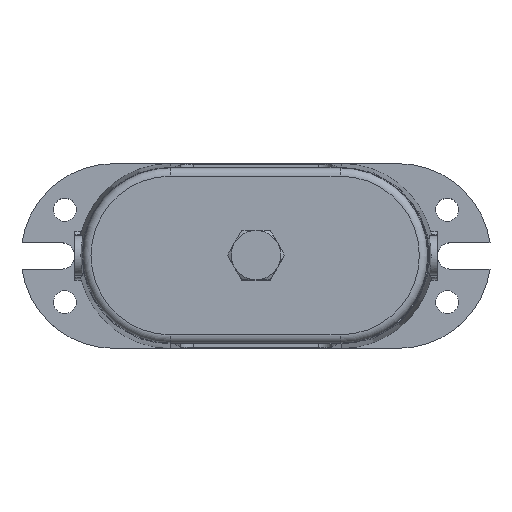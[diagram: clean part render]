
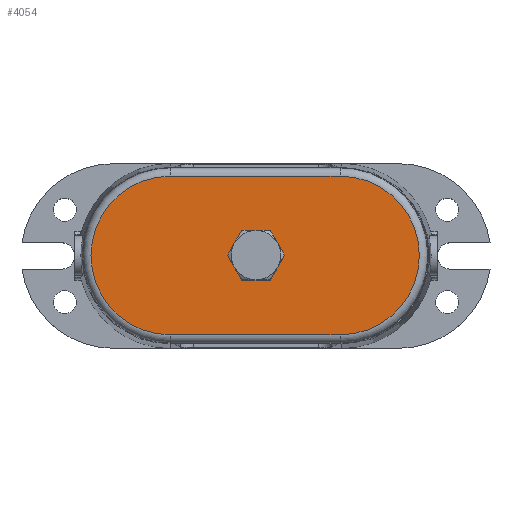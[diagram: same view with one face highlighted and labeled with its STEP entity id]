
A CAD part, top view. The second image highlights one B-rep face of the part: STEP entity #4054.
In plain terms, the highlighted planar face has unit normal (0, 0, 1).
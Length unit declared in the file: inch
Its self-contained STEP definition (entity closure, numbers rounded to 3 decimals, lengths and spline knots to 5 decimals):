
#149=FACE_BOUND('',#1239,.T.);
#222=PLANE('',#4372);
#367=LINE('',#8032,#634);
#368=LINE('',#8035,#635);
#634=VECTOR('',#5018,3.21875);
#635=VECTOR('',#5021,3.21875);
#975=FACE_OUTER_BOUND('',#1238,.T.);
#1238=EDGE_LOOP('',(#2929,#2930,#2931,#2932));
#1239=EDGE_LOOP('',(#2933,#2934,#2935,#2936,#2937,#2938));
#1482=CIRCLE('',#4355,0.46875);
#1483=CIRCLE('',#4357,0.46875);
#1484=CIRCLE('',#4359,0.46875);
#1485=CIRCLE('',#4361,0.46875);
#1486=CIRCLE('',#4363,0.46875);
#1487=CIRCLE('',#4365,0.46875);
#1488=CIRCLE('',#4373,1.50428);
#1489=CIRCLE('',#4374,1.50428);
#1761=VERTEX_POINT('',#7957);
#1762=VERTEX_POINT('',#7961);
#1763=VERTEX_POINT('',#7967);
#1766=VERTEX_POINT('',#7978);
#1768=VERTEX_POINT('',#7988);
#1769=VERTEX_POINT('',#7997);
#1772=VERTEX_POINT('',#8028);
#1773=VERTEX_POINT('',#8029);
#1774=VERTEX_POINT('',#8031);
#1775=VERTEX_POINT('',#8033);
#2188=EDGE_CURVE('',#1761,#1762,#1482,.T.);
#2190=EDGE_CURVE('',#1762,#1763,#1483,.T.);
#2194=EDGE_CURVE('',#1766,#1761,#1484,.T.);
#2197=EDGE_CURVE('',#1768,#1766,#1485,.T.);
#2199=EDGE_CURVE('',#1763,#1769,#1486,.T.);
#2202=EDGE_CURVE('',#1769,#1768,#1487,.T.);
#2210=EDGE_CURVE('',#1772,#1773,#1488,.T.);
#2211=EDGE_CURVE('',#1774,#1772,#367,.T.);
#2212=EDGE_CURVE('',#1775,#1774,#1489,.T.);
#2213=EDGE_CURVE('',#1773,#1775,#368,.T.);
#2929=ORIENTED_EDGE('',*,*,#2210,.F.);
#2930=ORIENTED_EDGE('',*,*,#2211,.F.);
#2931=ORIENTED_EDGE('',*,*,#2212,.F.);
#2932=ORIENTED_EDGE('',*,*,#2213,.F.);
#2933=ORIENTED_EDGE('',*,*,#2188,.T.);
#2934=ORIENTED_EDGE('',*,*,#2190,.T.);
#2935=ORIENTED_EDGE('',*,*,#2199,.T.);
#2936=ORIENTED_EDGE('',*,*,#2202,.T.);
#2937=ORIENTED_EDGE('',*,*,#2197,.T.);
#2938=ORIENTED_EDGE('',*,*,#2194,.T.);
#4054=ADVANCED_FACE('',(#975,#149),#222,.T.);
#4355=AXIS2_PLACEMENT_3D('',#7965,#4974,#4975);
#4357=AXIS2_PLACEMENT_3D('',#7972,#4978,#4979);
#4359=AXIS2_PLACEMENT_3D('',#7985,#4982,#4983);
#4361=AXIS2_PLACEMENT_3D('',#7995,#4986,#4987);
#4363=AXIS2_PLACEMENT_3D('',#8002,#4990,#4991);
#4365=AXIS2_PLACEMENT_3D('',#8011,#4994,#4995);
#4372=AXIS2_PLACEMENT_3D('',#8027,#5014,#5015);
#4373=AXIS2_PLACEMENT_3D('',#8030,#5016,#5017);
#4374=AXIS2_PLACEMENT_3D('',#8034,#5019,#5020);
#4974=DIRECTION('center_axis',(0.,0.,
-1.));
#4975=DIRECTION('ref_axis',(-1.,0.,0.));
#4978=DIRECTION('center_axis',(0.,0.,
-1.));
#4979=DIRECTION('ref_axis',(-1.,0.,0.));
#4982=DIRECTION('center_axis',(0.,0.,
-1.));
#4983=DIRECTION('ref_axis',(-1.,0.,0.));
#4986=DIRECTION('center_axis',(0.,0.,
-1.));
#4987=DIRECTION('ref_axis',(-1.,0.,0.));
#4990=DIRECTION('center_axis',(0.,0.,
-1.));
#4991=DIRECTION('ref_axis',(-1.,0.,0.));
#4994=DIRECTION('center_axis',(0.,0.,
-1.));
#4995=DIRECTION('ref_axis',(-1.,0.,0.));
#5014=DIRECTION('center_axis',(0.,0.,
1.));
#5015=DIRECTION('ref_axis',(1.,0.,0.));
#5016=DIRECTION('center_axis',(0.,0.,
-1.));
#5017=DIRECTION('ref_axis',(1.,0.,0.));
#5018=DIRECTION('',(1.,0.,0.));
#5019=DIRECTION('center_axis',(0.,0.,
-1.));
#5020=DIRECTION('ref_axis',(-1.,0.,0.));
#5021=DIRECTION('',(-1.,0.,0.));
#7957=CARTESIAN_POINT('',(0.40595,0.23438,5.625));
#7961=CARTESIAN_POINT('',(0.40595,-0.23437,5.625));
#7965=CARTESIAN_POINT('Origin',(0.,0.,
5.625));
#7967=CARTESIAN_POINT('',(0.,-0.46875,5.625));
#7972=CARTESIAN_POINT('Origin',(0.,0.,
5.625));
#7978=CARTESIAN_POINT('',(0.,0.46875,5.625));
#7985=CARTESIAN_POINT('Origin',(0.,0.,
5.625));
#7988=CARTESIAN_POINT('',(-0.40595,0.23437,5.625));
#7995=CARTESIAN_POINT('Origin',(0.,0.,
5.625));
#7997=CARTESIAN_POINT('',(-0.40595,-0.23438,5.625));
#8002=CARTESIAN_POINT('Origin',(0.,0.,
5.625));
#8011=CARTESIAN_POINT('Origin',(0.,0.,
5.625));
#8027=CARTESIAN_POINT('Origin',(-0.01563,0.,
5.625));
#8028=CARTESIAN_POINT('',(1.59375,1.50428,5.625));
#8029=CARTESIAN_POINT('',(1.59375,-1.50428,5.625));
#8030=CARTESIAN_POINT('Origin',(1.59375,0.,5.625));
#8031=CARTESIAN_POINT('',(-1.625,1.50428,5.625));
#8032=CARTESIAN_POINT('',(0.78906,1.50428,5.625));
#8033=CARTESIAN_POINT('',(-1.625,-1.50428,5.625));
#8034=CARTESIAN_POINT('Origin',(-1.625,0.,5.625));
#8035=CARTESIAN_POINT('',(-0.82031,-1.50428,5.625));
